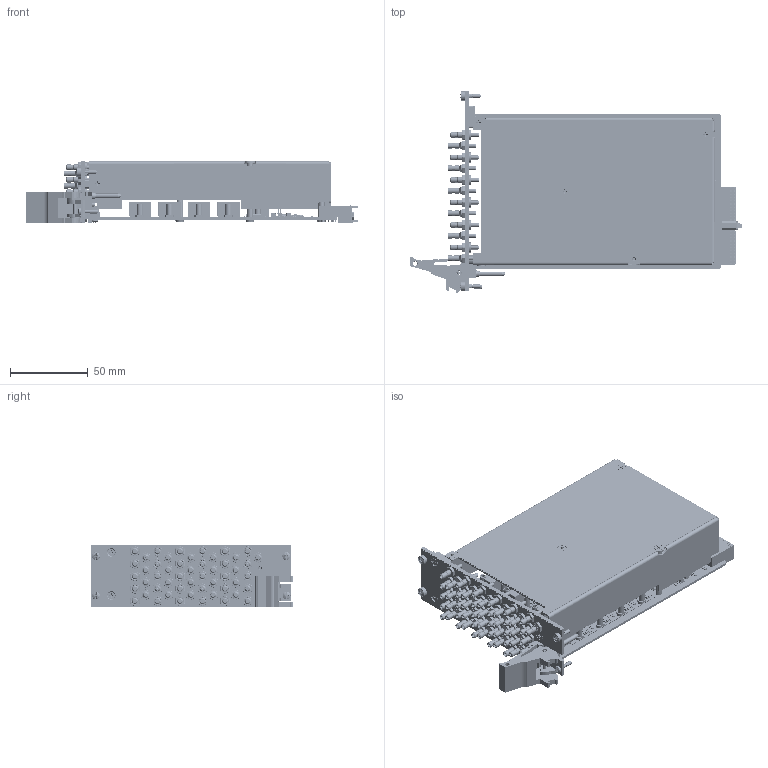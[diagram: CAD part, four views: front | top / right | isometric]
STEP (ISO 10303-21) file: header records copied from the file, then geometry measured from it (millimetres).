
FILE_DESCRIPTION (( 'STEP AP214' ), '1' );
FILE_NAME ('40-754-117 PXI 17 x SPDT RF Switch 1.2GHz 50Ohm SMB Connectors.STEP', '2023-01-16T16:45:53', ( '' ), ( '' ), 'SwSTEP 2.0', 'SolidWorks 2021', '' );
FILE_SCHEMA (( 'AUTOMOTIVE_DESIGN' ));
Length unit declared in the file: millimetre
Products named in the file (98): C-MS-813 CABLE ASSY SMB-SMB KU FLEX405; C-CN-1127 TERMINATOR KU-FLEX 405 2 PIN; A-FP-721-L1 PXI 51 x SMB FP Full Assembly; C-FX-591 LXI Fixing Standoff; C-FX-273 M3 X 6 SLOTTED PAN SCREW; C-IC-226  16 Bit Driver IC; C-CP-051 10uF 10V Capacitor; C-FX-165 CPCI Ejector Handle; C-FX-165 Handle Finger; C-CN-355 Compact pci connector 3; C-FX-165 Handle Pin; P-FX-017 M2,5 Collar Posi-Slot Screw; C-FX-101 Screw, M2.5 x 6, Pan Hd, Pozi, Steel, BZP; A-PC-785-# PXI PCB Assembly 40-754; L-FP-721 PXI 3 SLT FP Label Assy; L-FX-691 RF Screen label 40-755-754 assy; Z-FX-2001 FP Fixing - Bush + Screw; A-PC-785 PXI 17 OFF RF SPDT; C-CP-024 Cap 10uF 16V Tant Smt (C.CASE); C-MS-813-NUT CABLE ASSY SMB-SMB KU FLEX405 NUT; C-FP-721 PXI 51 x SMB FP; C-SC-056 80V 250mA (DC) SOD323 Diode; C-FX-691 40-755 2 Slot RF Screen; A-FX-691 PXI RF Screen + Label Assy; C-PC-785 PXI PCB Board 40-754; C-FX-469; L-FX-165 PXI Handle Label; C-IC-183 TSSOP 20-PIN IC; C-CP-034; C-MS-813-CONNECTOR CABLE ASSY SMB-SMB KU FLEX405 CONNECTOR; L-FP-721-# PXI 51 x SMB FP Label; C-MS-232 25MHz Crystal; L-FX-691-# RF Screen label 40-755-754; C-RS-102 RES 4x10R 1206 1-16W 5% 200PPM; C-IC-338 4-Channel Digital Isolator 16-Pin SOIC W; C-IC-249; C-IC-159 IC Voltage Regulator  SOT-223-5; 40-754-117 PXI 17 x SPDT RF Switch 1.2GHz 50Ohm SMB Connectors; C-IC-210 Spartan II chip BGA; C-BP-018 PXI 3U x 2 Slot Blank Panel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
Assembly tree (290 placements, depth 5):
  40-754-117 PXI 17 x SPDT RF Switch 1.2GHz 50Ohm SMB Connectors
    A-PC-785 PXI 17 OFF RF SPDT
      A-PC-785-# PXI PCB Assembly 40-754
        C-PC-785 PXI PCB Board 40-754
        C-CN-355 Compact pci connector 3
        C-IC-210 Spartan II chip BGA
        C-MS-232 25MHz Crystal
        C-IC-338 4-Channel Digital Isolator 16-Pin SOIC W  x2
        C-CP-024 Cap 10uF 16V Tant Smt (C.CASE)  x4
        C-CP-051 10uF 10V Capacitor  x3
        C-IC-159 IC Voltage Regulator  SOT-223-5
        C-IC-249
        C-CP-034  x57
        C-CN-1127 TERMINATOR KU-FLEX 405 2 PIN
        C-CN-1127 TERMINATOR KU-FLEX 405 2 PIN
        C-CN-1127 TERMINATOR KU-FLEX 405 2 PIN
        C-CN-1127 TERMINATOR KU-FLEX 405 2 PIN
        C-CN-1127 TERMINATOR KU-FLEX 405 2 PIN
        C-CN-1127 TERMINATOR KU-FLEX 405 2 PIN
        C-SC-056 80V 250mA (DC) SOD323 Diode  x17
        C-CN-1127 TERMINATOR KU-FLEX 405 2 PIN
        C-CN-1127 TERMINATOR KU-FLEX 405 2 PIN
        C-CN-1127 TERMINATOR KU-FLEX 405 2 PIN
        C-CN-1127 TERMINATOR KU-FLEX 405 2 PIN
        C-CN-1127 TERMINATOR KU-FLEX 405 2 PIN
        C-CN-1127 TERMINATOR KU-FLEX 405 2 PIN
        C-CN-1127 TERMINATOR KU-FLEX 405 2 PIN
        C-CN-1127 TERMINATOR KU-FLEX 405 2 PIN
        C-CN-1127 TERMINATOR KU-FLEX 405 2 PIN
        C-CN-1127 TERMINATOR KU-FLEX 405 2 PIN
        C-CN-1127 TERMINATOR KU-FLEX 405 2 PIN
        C-CN-1127 TERMINATOR KU-FLEX 405 2 PIN
        C-CN-1127 TERMINATOR KU-FLEX 405 2 PIN
        C-CN-1127 TERMINATOR KU-FLEX 405 2 PIN
        C-CN-1127 TERMINATOR KU-FLEX 405 2 PIN
        C-CN-1127 TERMINATOR KU-FLEX 405 2 PIN
        C-CN-1127 TERMINATOR KU-FLEX 405 2 PIN
        C-CN-1127 TERMINATOR KU-FLEX 405 2 PIN
        C-CN-1127 TERMINATOR KU-FLEX 405 2 PIN
        C-CN-1127 TERMINATOR KU-FLEX 405 2 PIN
        C-CN-1127 TERMINATOR KU-FLEX 405 2 PIN
        C-CN-1127 TERMINATOR KU-FLEX 405 2 PIN
        C-CN-1127 TERMINATOR KU-FLEX 405 2 PIN
        C-CN-1127 TERMINATOR KU-FLEX 405 2 PIN
        C-CN-1127 TERMINATOR KU-FLEX 405 2 PIN
        C-CN-1127 TERMINATOR KU-FLEX 405 2 PIN
        C-CN-1127 TERMINATOR KU-FLEX 405 2 PIN
        C-CN-1127 TERMINATOR KU-FLEX 405 2 PIN
        C-CN-1127 TERMINATOR KU-FLEX 405 2 PIN
        C-CN-1127 TERMINATOR KU-FLEX 405 2 PIN
        C-CN-1127 TERMINATOR KU-FLEX 405 2 PIN
        C-CN-1127 TERMINATOR KU-FLEX 405 2 PIN
        C-CN-1127 TERMINATOR KU-FLEX 405 2 PIN
        C-CN-1127 TERMINATOR KU-FLEX 405 2 PIN
        C-CN-1127 TERMINATOR KU-FLEX 405 2 PIN
        C-CN-1127 TERMINATOR KU-FLEX 405 2 PIN
        C-CN-1127 TERMINATOR KU-FLEX 405 2 PIN
        C-CN-1127 TERMINATOR KU-FLEX 405 2 PIN
        C-CN-1127 TERMINATOR KU-FLEX 405 2 PIN
        C-CN-1127 TERMINATOR KU-FLEX 405 2 PIN
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Bounding box: 213.7 x 129.68 x 40.16 mm (x, y, z)
Volume: 110839.9 mm3; surface area: 209438.2 mm2
Topology: 356 solids, 398 shells, 30826 faces, 79559 edges, 50653 vertices
Faces by surface type: plane 15019, cylinder 8501, bspline 3816, cone 2189, sphere 964, torus 337
Entity records: 498874 total; most frequent: CARTESIAN_POINT 113588, ORIENTED_EDGE 62624, DIRECTION 62473, EDGE_CURVE 31316, AXIS2_PLACEMENT_3D 21926, VERTEX_POINT 20467, LINE 18621, VECTOR 18621
